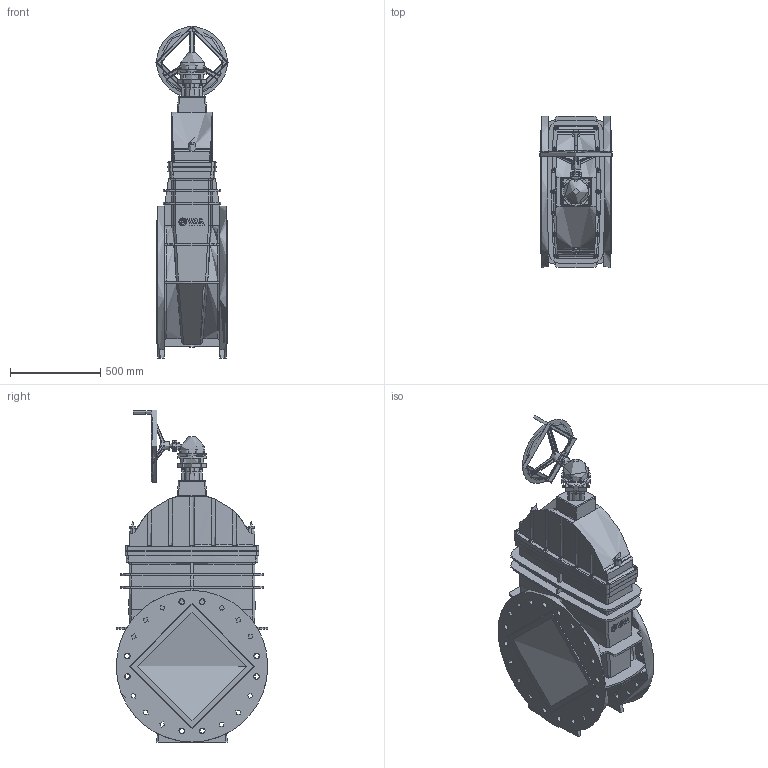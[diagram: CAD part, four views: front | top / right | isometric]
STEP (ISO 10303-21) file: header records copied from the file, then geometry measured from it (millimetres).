
FILE_DESCRIPTION(('STEP AP242'), '1');
FILE_NAME('青溻桄赅', '', ('UNSPECIFIED'), ('UNSPECIFIED'), 'C3D Converter', 'C3D Toolkit', '');
FILE_SCHEMA(('AP242_MANAGED_MODEL_BASED_3D_ENGINEERING_MIM_LF { 1 0 10303 442 1 1 4 }'));
Length unit declared in the file: millimetre
Assembly tree (40 placements, depth 2):
  (unnamed)
    (unnamed)
    (unnamed)
    (unnamed)
    (unnamed)  x2
    (unnamed)
    (unnamed)
    (unnamed)
    (unnamed)
    (unnamed)
    (unnamed)  x15
    (unnamed)  x4
    (unnamed)  x8
    (unnamed)
    (unnamed)  x2
Bounding box: 400 x 840 x 1840 mm (x, y, z)
Topology: 47 solids, 47 shells, 1845 faces, 4448 edges, 2794 vertices
Faces by surface type: plane 893, cylinder 472, cone 168, extrusion 159, bspline 87, torus 66
Full cylindrical faces by diameter (mm): 3 x8, 4 x32, 6 x7, 7 x8, 8 x12, 10 x15, 12 x65, 13 x4, 16 x4, 18 x33, 20 x5, 29 x1, 31 x40, 35 x9, 40 x1, 42.768 x1, 50 x1, 59 x5, 60 x2, 116.402 x2, 137.765 x1, 159.128 x3, 340 x1, 350 x1, 390 x1, 400 x1, 564 x2, 600 x4, 643.2 x4, 672 x1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
Entity records: 74332 total; most frequent: CARTESIAN_POINT 41360, ORIENTED_EDGE 5904, DIRECTION 5466, EDGE_CURVE 2952, AXIS2_PLACEMENT_3D 2059, VERTEX_POINT 2051, EDGE_LOOP 1832, FACE_BOUND 1369
